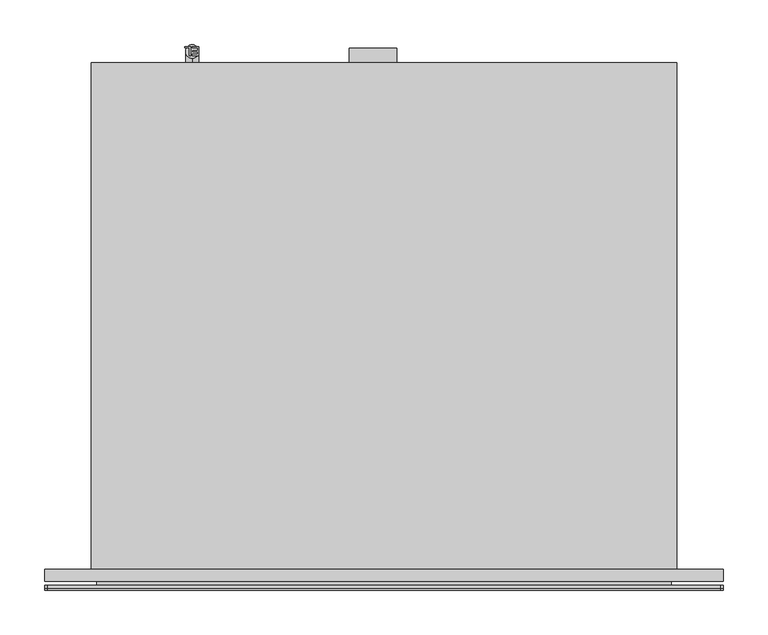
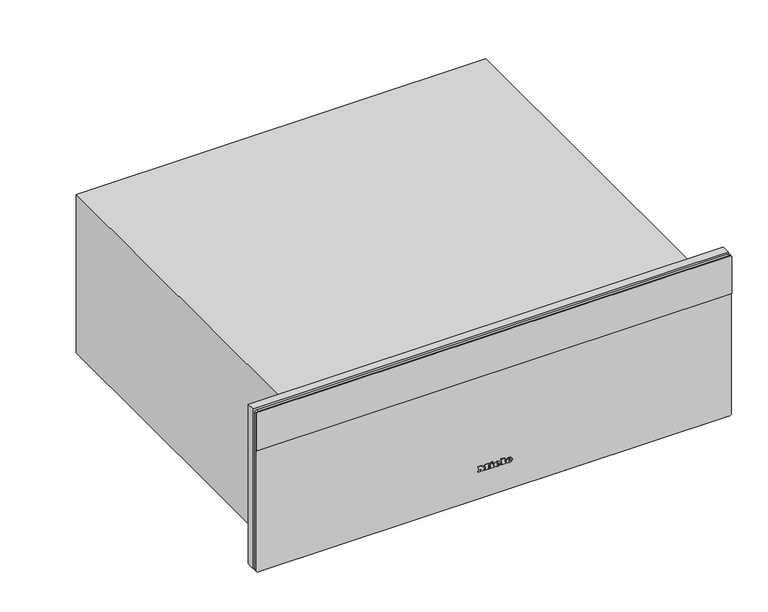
"""IFC4 building model written with IfcOpenShell, lengths in millimetres: proxy geometry, 11788750_BR_ESW7680_EDST-CLST : 30768040_BR_11788750_ESW7680_EDST-CLST."""

import ifcopenshell
import ifcopenshell.guid

model = None  # the IFC model being written
_history = None  # IfcOwnerHistory: only IFC2X3 demands one
_inside = {}  # id of a spatial element -> (the spatial element, [elements in it])
_under = {}  # id of a project, library or spatial element -> (it, [spatial elements below it])
_declared = {}  # id of a project -> (the project, [libraries it declares])
_typed = {}  # id of a type object -> (the type object, [elements of that type])
_made_of = {}  # id of a material, layer set ... -> (it, [elements and type objects made of it])


def new_model(schema):
    """Start an empty IFC model of exactly this schema.

    Asked for "IFC4X3", IfcOpenShell would pick the latest addendum, in which some entities
    have other attributes; the version numbers below select the first issue.
    IFC2X3 requires an IfcOwnerHistory on every rooted entity: one is made here for all.
    """
    global model, _history
    if schema == "IFC4X3":
        model = ifcopenshell.file(schema_version=(4, 3, 0, 0))
    else:
        model = ifcopenshell.file(schema=schema)
    _inside.clear()
    _under.clear()
    _declared.clear()
    _typed.clear()
    _made_of.clear()
    _history = None
    if model.schema == "IFC2X3":
        org = make("IfcOrganization", Name="unknown")
        user = make(
            "IfcPersonAndOrganization",
            ThePerson=make("IfcPerson", FamilyName="unknown"),
            TheOrganization=org,
        )
        app = make(
            "IfcApplication",
            ApplicationDeveloper=org,
            Version="unknown",
            ApplicationFullName="unknown",
            ApplicationIdentifier="unknown",
        )
        _history = make(
            "IfcOwnerHistory",
            OwningUser=user,
            OwningApplication=app,
            ChangeAction="ADDED",
            CreationDate=0,
        )
    return model


def make(cls, **values):
    """One entity of the class cls with the attributes given. An attribute that is None is left unset."""
    return model.create_entity(
        cls, **{name: value for name, value in values.items() if value is not None}
    )


def rooted(cls, **values):
    """An entity with a GlobalId (a new one), such as an element, a storey or a relation."""
    return make(cls, GlobalId=ifcopenshell.guid.new(), OwnerHistory=_history, **values)


def si_unit(unit_type, name, prefix=None):
    """IfcSIUnit, for example si_unit("LENGTHUNIT", "METRE", prefix="MILLI")."""
    return make("IfcSIUnit", UnitType=unit_type, Prefix=prefix, Name=name)


def assignment(units):
    """IfcUnitAssignment: the units of a project."""
    return None if units is None else make("IfcUnitAssignment", Units=units)


def point(xyz):
    """IfcCartesianPoint."""
    return None if xyz is None else make("IfcCartesianPoint", Coordinates=xyz)


def direction(xyz):
    """IfcDirection."""
    return None if xyz is None else make("IfcDirection", DirectionRatios=xyz)


def frame(location, z_axis=None, x_axis=None):
    """IfcAxis2Placement3D, a coordinate frame: its origin and axes. An axis left out is left unset."""
    return make(
        "IfcAxis2Placement3D",
        Location=point(location),
        Axis=direction(z_axis),
        RefDirection=direction(x_axis),
    )


def frame_2d(location, x_axis=None):
    """IfcAxis2Placement2D, a coordinate frame in the plane: its origin and x axis."""
    return make(
        "IfcAxis2Placement2D", Location=point(location), RefDirection=direction(x_axis)
    )


def origin():
    """The frame at (0, 0, 0) with its axes left unset."""
    return frame((0.0, 0.0, 0.0))


def place(relative_to, where):
    """IfcLocalPlacement: puts the frame where relative to a parent placement (None: the world)."""
    return make(
        "IfcLocalPlacement", PlacementRelTo=relative_to, RelativePlacement=where
    )


def context(
    kind, dimensions, precision=None, world=None, true_north=None, identifier=None
):
    """IfcGeometricRepresentationContext, for example the 3D "Model" context."""
    return make(
        "IfcGeometricRepresentationContext",
        ContextIdentifier=identifier,
        ContextType=kind,
        CoordinateSpaceDimension=dimensions,
        Precision=precision,
        WorldCoordinateSystem=world,
        TrueNorth=true_north,
    )


def project(units=None, contexts=None):
    """IfcProject with its units and contexts."""
    return rooted(
        "IfcProject",
        Name="project",
        RepresentationContexts=contexts,
        UnitsInContext=assignment(units),
    )


def spatial(cls, under=None, at=None, **own):
    """A site, building, storey or space (cls), placed at a placement, below another one or the project."""
    s = rooted(cls, ObjectPlacement=at, **own)
    if under is not None:
        _under.setdefault(under.id(), (under, []))[1].append(s)
    return s


def polyline(points):
    """IfcPolyline through the points."""
    return make("IfcPolyline", Points=[point(p) for p in points])


def circle_curve(where, radius):
    """IfcCircle in the frame where."""
    return make("IfcCircle", Position=where, Radius=radius)


def ellipse_curve(where, semi_axis1, semi_axis2):
    """IfcEllipse in the frame where."""
    return make(
        "IfcEllipse", Position=where, SemiAxis1=semi_axis1, SemiAxis2=semi_axis2
    )


def trimmed(basis, trim1, trim2, sense, master):
    """IfcTrimmedCurve: the piece of a basis curve between two trims."""
    return make(
        "IfcTrimmedCurve",
        BasisCurve=basis,
        Trim1=trim1,
        Trim2=trim2,
        SenseAgreement=sense,
        MasterRepresentation=master,
    )


def segment(curve, same_sense, transition):
    """IfcCompositeCurveSegment."""
    return make(
        "IfcCompositeCurveSegment",
        Transition=transition,
        SameSense=same_sense,
        ParentCurve=curve,
    )


def composite_curve(segments, self_intersect=None):
    """IfcCompositeCurve: segments joined end to end."""
    return make("IfcCompositeCurve", Segments=segments, SelfIntersect=self_intersect)


def outline(outer, holes=None, kind="AREA"):
    """IfcArbitraryClosedProfileDef: a profile drawn as a closed curve; with holes, ...WithVoids."""
    if holes is None:
        return make("IfcArbitraryClosedProfileDef", ProfileType=kind, OuterCurve=outer)
    return make(
        "IfcArbitraryProfileDefWithVoids",
        ProfileType=kind,
        OuterCurve=outer,
        InnerCurves=holes,
    )


def extrude(swept, where, along, depth):
    """IfcExtrudedAreaSolid: the profile swept, set in the frame where, extruded along a direction by depth."""
    return make(
        "IfcExtrudedAreaSolid",
        SweptArea=swept,
        Position=where,
        ExtrudedDirection=direction(along),
        Depth=depth,
    )


def faces_of(points, faces, orient=None, outer=None):
    """IfcFace entities. A face is a list of loops; a loop is a list of indices into points, from 0.

    orient and outer hold one flag for each loop. By default every Orientation is true, the
    first loop of a face is its IfcFaceOuterBound and the others are IfcFaceBound.
    """
    made = []
    for i, loops in enumerate(faces):
        bounds = []
        for j, loop in enumerate(loops):
            is_outer = j == 0 if outer is None else outer[i][j]
            bounds.append(
                make(
                    "IfcFaceOuterBound" if is_outer else "IfcFaceBound",
                    Bound=make("IfcPolyLoop", Polygon=[points[k] for k in loop]),
                    Orientation=True if orient is None else orient[i][j],
                )
            )
        made.append(make("IfcFace", Bounds=bounds))
    return made


def faceted_brep(points, faces, orient=None, outer=None, voids=None):
    """IfcFacetedBrep: a solid bounded by flat faces; with voids (closed shells), ...WithVoids."""
    shared = [point(p) for p in points]
    hull = make("IfcClosedShell", CfsFaces=faces_of(shared, faces, orient, outer))
    if voids is None:
        return make("IfcFacetedBrep", Outer=hull)
    return make(
        "IfcFacetedBrepWithVoids",
        Outer=hull,
        Voids=[
            make(cls, CfsFaces=faces_of(shared, fs, o, b)) for cls, fs, o, b in voids
        ],
    )


def shape(context_of_items, identifier, shape_type, items):
    """IfcShapeRepresentation: the items that make up one representation, for example the "Body"."""
    return make(
        "IfcShapeRepresentation",
        ContextOfItems=context_of_items,
        RepresentationIdentifier=identifier,
        RepresentationType=shape_type,
        Items=items,
    )


def source(mapping_origin, context_of_items, identifier, shape_type, items):
    """IfcRepresentationMap: a shape defined once, which mapped items show again and again."""
    return make(
        "IfcRepresentationMap",
        MappingOrigin=mapping_origin,
        MappedRepresentation=shape(context_of_items, identifier, shape_type, items),
    )


def transform(
    local_origin,
    x_axis=None,
    y_axis=None,
    z_axis=None,
    scale=None,
    scale2=None,
    scale3=None,
    uniform=True,
):
    """IfcCartesianTransformationOperator3D, or its non-uniform kind. x_axis, y_axis, z_axis: its Axis1, 2, 3."""
    if uniform:
        return make(
            "IfcCartesianTransformationOperator3D",
            Axis1=direction(x_axis),
            Axis2=direction(y_axis),
            LocalOrigin=point(local_origin),
            Scale=scale,
            Axis3=direction(z_axis),
        )
    return make(
        "IfcCartesianTransformationOperator3DnonUniform",
        Axis1=direction(x_axis),
        Axis2=direction(y_axis),
        LocalOrigin=point(local_origin),
        Scale=scale,
        Axis3=direction(z_axis),
        Scale2=scale2,
        Scale3=scale3,
    )


def mapped(mapping_source, mapping_target):
    """IfcMappedItem: shows the shape of a source again, moved by a transform."""
    return make(
        "IfcMappedItem", MappingSource=mapping_source, MappingTarget=mapping_target
    )


def made_of(thing, what):
    """Note that an element or type object is made of a material, layer set ...; save() writes the relation."""
    if what is not None:
        _made_of.setdefault(what.id(), (what, []))[1].append(thing)
    return thing


def element(
    cls,
    number,
    at=None,
    inside=None,
    cuts=None,
    type_object=None,
    material=None,
    context=None,
    identifier="Body",
    shape_type=None,
    held_by="IfcProductDefinitionShape",
    body=None,
    shapes=None,
    **own,
):
    """One element of the class cls, such as IfcWall. Its Tag is "e" and its number.

    at: its placement. inside: the storey or other place that contains it. cuts: it is an
    opening in that element (IfcRelVoidsElement). A single representation is given by context,
    identifier, shape_type and body (its items); several are given by shapes. held_by: the class
    of the entity that holds the representations. save() writes the other relations.
    """
    e = rooted(cls, Tag="e%d" % number, ObjectPlacement=at, **own)
    if body is not None:
        shapes = [shape(context, identifier, shape_type, body)]
    if shapes is not None:
        e.Representation = make(held_by, Representations=shapes)
    if inside is not None:
        _inside.setdefault(inside.id(), (inside, []))[1].append(e)
    if cuts is not None:
        rooted(
            "IfcRelVoidsElement", RelatingBuildingElement=cuts, RelatedOpeningElement=e
        )
    if type_object is not None:
        _typed.setdefault(type_object.id(), (type_object, []))[1].append(e)
    return made_of(e, material)


def aggregate(whole, parts):
    """IfcRelAggregates: a whole, such as a stair, and the parts it consists of."""
    return rooted("IfcRelAggregates", RelatingObject=whole, RelatedObjects=parts)


def save(model, path):
    """Write the relations noted so far, then the file.

    IfcRelAggregates (storeys below a building ...), IfcRelContainedInSpatialStructure (elements
    in a storey), IfcRelDefinesByType, IfcRelAssociatesMaterial and IfcRelDeclares: one each for
    every whole, place, type object, material and project.
    """
    for whole, parts in _under.values():
        aggregate(whole, parts)
    for where, things in _inside.values():
        rooted(
            "IfcRelContainedInSpatialStructure",
            RelatedElements=things,
            RelatingStructure=where,
        )
    for kind, things in _typed.values():
        rooted("IfcRelDefinesByType", RelatedObjects=things, RelatingType=kind)
    for what, things in _made_of.values():
        rooted("IfcRelAssociatesMaterial", RelatedObjects=things, RelatingMaterial=what)
    for by, libraries in _declared.values():
        rooted("IfcRelDeclares", RelatingContext=by, RelatedDefinitions=libraries)
    model.write(path)


def plane_surface(at):
    """IfcPlane: the flat surface through the origin of the frame at, square to its z axis."""
    return make("IfcPlane", Position=at)


def cylinder_surface(at, radius):
    """IfcCylindricalSurface: all points at the distance radius from the z axis of the frame at."""
    return make("IfcCylindricalSurface", Position=at, Radius=radius)


def revolved_surface(curve, axis_point, axis_direction):
    """IfcSurfaceOfRevolution: the curve turned about the line through axis_point along axis_direction."""
    return make(
        "IfcSurfaceOfRevolution",
        SweptCurve=make("IfcArbitraryOpenProfileDef", ProfileType="CURVE", Curve=curve),
        AxisPosition=make("IfcAxis1Placement", Location=point(axis_point), Axis=direction(axis_direction)),
    )


def extruded_surface(curve, direction_of_extrusion, depth):
    """IfcSurfaceOfLinearExtrusion: the curve pushed along a direction by depth."""
    return make(
        "IfcSurfaceOfLinearExtrusion",
        SweptCurve=make("IfcArbitraryOpenProfileDef", ProfileType="CURVE", Curve=curve),
        ExtrudedDirection=direction(direction_of_extrusion),
        Depth=depth,
    )


def advanced_brep(points, edges, surfaces, faces):
    """IfcAdvancedBrep: a solid bounded by faces that lie on surfaces and meet in shared edges.

    An edge is (start, end): straight between two places in points (the first is 0);
    or (start, end, curve); or (start, end, curve, False) where it runs against its curve.
    A face is (place in surfaces, loops), or (place, loops, False) where it looks against
    its surface's normal. A loop lists edges by number (the first is 1), with a minus sign
    where the edge is run from its end to its start. The first loop is the outer one.
    """
    corners = [point(p) for p in points]
    vertices = [make("IfcVertexPoint", VertexGeometry=c) for c in corners]
    made = []
    for start, end, *more in edges:
        made.append(
            make(
                "IfcEdgeCurve",
                EdgeStart=vertices[start],
                EdgeEnd=vertices[end],
                EdgeGeometry=more[0] if more else make("IfcPolyline", Points=[corners[start], corners[end]]),
                SameSense=more[1] if len(more) > 1 else True,
            )
        )
    hull = []
    for where, loops, *sense in faces:
        bounds = []
        for j, loop in enumerate(loops):
            ring = [make("IfcOrientedEdge", EdgeElement=made[abs(k) - 1], Orientation=k > 0) for k in loop]
            bounds.append(
                make(
                    "IfcFaceOuterBound" if j == 0 else "IfcFaceBound",
                    Bound=make("IfcEdgeLoop", EdgeList=ring),
                    Orientation=True,
                )
            )
        hull.append(make("IfcAdvancedFace", Bounds=bounds, FaceSurface=surfaces[where], SameSense=sense[0] if sense else True))
    return make("IfcAdvancedBrep", Outer=make("IfcClosedShell", CfsFaces=hull))


def specialty_equipment_7c6c6db1(model_context):
    return source(origin(), model_context, "Body", "SolidModel", [
        advanced_brep(
        [(23.263, -22.7, 52.133), (23.263, -22.7, 53.042), (29.284, -22.7, 53.042), (18.808, -22.7, 53.042), (21.283, -22.7, 50.0), (29.131, -22.7, 52.133), (26.413, -22.7, 52.133), (24.271, -22.7, 51.125), (23.263, -22.7, 54.194), (23.263, -22.7, 55.175), (24.802, -22.7, 55.175), (24.802, -22.7, 54.194), (23.263, -21.7, 52.133), (24.271, -21.7, 51.125), (26.413, -21.7, 52.133), (29.131, -21.7, 52.133), (21.283, -21.7, 50.0), (18.808, -21.7, 53.042), (29.284, -21.7, 53.042), (23.263, -21.7, 53.042), (23.263, -21.7, 54.194), (24.802, -21.7, 54.194), (24.802, -21.7, 55.175), (23.263, -21.7, 55.175)],
        [
            (0, 1),
            (1, 2),
            (2, 3, ellipse_curve(frame((24.046, -22.7, 53.042), z_axis=(0.0, -1.0, 0.0), x_axis=(-1.0, 0.0, 0.0)), 5.238, 4.329)),
            (3, 4, circle_curve(frame((22.2910491, -22.7, 53.348), z_axis=(0.0, -1.0, 0.0), x_axis=(0.0, 0.0, -1.0)), 3.4964649)),
            (4, 5, circle_curve(frame((23.9411428, -22.7, 55.724), z_axis=(0.0, -1.0, 0.0), x_axis=(0.0, 0.0, -1.0)), 6.3110933)),
            (5, 6),
            (6, 7, circle_curve(frame((24.7109412, -22.7, 52.97), z_axis=(0.0, 1.0, 0.0), x_axis=(0.0, 0.0, -1.0)), 1.896727)),
            (7, 0, circle_curve(frame((24.271, -22.7, 52.133), z_axis=(0.0, 1.0, 0.0), x_axis=(0.0, 0.0, -1.0)), 1.008)),
            (8, 9),
            (9, 10, circle_curve(frame((24.0325, -22.7, 55.175), z_axis=(0.0, 1.0, 0.0), x_axis=(0.0, 0.0, -1.0)), 0.7695)),
            (10, 11),
            (11, 8),
            (12, 13, circle_curve(frame((24.271, -21.7, 52.133), z_axis=(0.0, -1.0, 0.0), x_axis=(0.0, 0.0, -1.0)), 1.008)),
            (13, 14, circle_curve(frame((24.7109412, -21.7, 52.97), z_axis=(0.0, -1.0, 0.0), x_axis=(0.0, 0.0, -1.0)), 1.896727)),
            (14, 15),
            (15, 16, circle_curve(frame((23.9411428, -21.7, 55.724), z_axis=(0.0, 1.0, 0.0), x_axis=(0.0, 0.0, -1.0)), 6.3110933)),
            (16, 17, circle_curve(frame((22.2910491, -21.7, 53.348), z_axis=(0.0, 1.0, 0.0), x_axis=(0.0, 0.0, -1.0)), 3.4964649)),
            (17, 18, ellipse_curve(frame((24.046, -21.7, 53.042), z_axis=(0.0, 1.0, 0.0), x_axis=(-1.0, 0.0, 0.0)), 5.238, 4.329)),
            (18, 19),
            (19, 12),
            (20, 21),
            (21, 22),
            (22, 23, circle_curve(frame((24.0325, -21.7, 55.175), z_axis=(0.0, -1.0, 0.0), x_axis=(0.0, 0.0, -1.0)), 0.7695)),
            (23, 20),
            (0, 12),
            (19, 1),
            (18, 2),
            (5, 15),
            (14, 6),
            (17, 3),
            (13, 7),
            (16, 4),
            (8, 20),
            (23, 9),
            (22, 10),
            (21, 11),
        ],
        [
            plane_surface(frame((23.263, -22.7, 53.042), z_axis=(0.0, -1.0, 0.0), x_axis=(0.0, 0.0, 1.0))),
            plane_surface(frame((23.263, -21.7, 53.042), z_axis=(0.0, 1.0, 0.0), x_axis=(0.0, 0.0, -1.0))),
            plane_surface(frame((23.263, -22.7, 52.133), z_axis=(1.0, 0.0, 0.0), x_axis=(0.0, 1.0, 0.0))),
            plane_surface(frame((23.263, -22.7, 53.042), z_axis=(0.0, 0.0, -1.0), x_axis=(0.0, 1.0, 0.0))),
            plane_surface(frame((29.131, -22.7, 52.133), z_axis=(0.0, 0.0, 1.0), x_axis=(0.0, 1.0, 0.0))),
            extruded_surface(trimmed(ellipse_curve(frame((24.046, -20.7, 53.042), z_axis=(0.0, -1.0, 0.0), x_axis=(-1.0, 0.0, 0.0)), 5.238, 4.329), [point((29.284, -20.7, 53.042))], [point((18.808, -20.7, 53.042))], True, "CARTESIAN"), (0.0, -1.0, 0.0), 1.0),
            revolved_surface(polyline([(24.7109412, -21.7, 51.073273), (24.7109412, -22.7, 51.073273)]), (24.7109412, -21.7, 52.97), (0.0, 1.0, 0.0)),
            revolved_surface(polyline([(24.271, -21.7, 51.125), (24.271, -22.7, 51.125)]), (24.271, -21.7, 52.133), (0.0, 1.0, 0.0)),
            cylinder_surface(frame((22.2910491, -21.7, 53.348), z_axis=(0.0, -1.0, 0.0), x_axis=(0.0, 0.0, -1.0)), 3.4964649),
            cylinder_surface(frame((23.9411428, -21.7, 55.724), z_axis=(0.0, -1.0, 0.0), x_axis=(0.0, 0.0, -1.0)), 6.3110933),
            plane_surface(frame((23.263, -22.7, 54.194), z_axis=(1.0, 0.0, 0.0), x_axis=(0.0, 1.0, 0.0))),
            revolved_surface(polyline([(24.0325, -21.7, 54.405499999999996), (24.0325, -22.7, 54.405499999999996)]), (24.0325, -21.7, 55.175), (0.0, 1.0, 0.0)),
            plane_surface(frame((24.802, -22.7, 55.175), z_axis=(-1.0, 0.0, 0.0), x_axis=(0.0, 1.0, 0.0))),
            plane_surface(frame((24.802, -22.7, 54.194), z_axis=(0.0, 0.0, 1.0), x_axis=(0.0, 1.0, 0.0))),
        ],
        [
            (0, [[1, 2, 3, 4, 5, 6, 7, 8], [9, 10, 11, 12]]),
            (1, [[13, 14, 15, 16, 17, 18, 19, 20], [21, 22, 23, 24]]),
            (2, [[-1, 25, -20, 26]]),
            (3, [[-2, -26, -19, 27]]),
            (4, [[-6, 28, -15, 29]]),
            (5, [[-3, -27, -18, 30]]),
            (6, [[-7, -29, -14, 31]]),
            (7, [[-8, -31, -13, -25]]),
            (8, [[-4, -30, -17, 32]]),
            (9, [[-5, -32, -16, -28]]),
            (10, [[-9, 33, -24, 34]]),
            (11, [[-10, -34, -23, 35]]),
            (12, [[-11, -35, -22, 36]]),
            (13, [[-12, -36, -21, -33]]),
        ],
    ),
        advanced_brep(
        [(4.48, -22.7, 52.133), (4.48, -22.7, 53.042), (10.501, -22.7, 53.042), (0.025, -22.7, 53.042), (2.5, -22.7, 50.0), (10.348, -22.7, 52.133), (7.63, -22.7, 52.133), (5.488, -22.7, 51.125), (4.48, -22.7, 54.194), (4.48, -22.7, 55.175), (6.019, -22.7, 55.175), (6.019, -22.7, 54.194), (4.48, -21.7, 52.133), (5.488, -21.7, 51.125), (7.63, -21.7, 52.133), (10.348, -21.7, 52.133), (2.5, -21.7, 50.0), (0.025, -21.7, 53.042), (10.501, -21.7, 53.042), (4.48, -21.7, 53.042), (4.48, -21.7, 54.194), (6.019, -21.7, 54.194), (6.019, -21.7, 55.175), (4.48, -21.7, 55.175)],
        [
            (0, 1),
            (1, 2),
            (2, 3, ellipse_curve(frame((5.263, -22.7, 53.042), z_axis=(0.0, -1.0, 0.0), x_axis=(-1.0, 0.0, 0.0)), 5.238, 4.329)),
            (3, 4, circle_curve(frame((3.5080491, -22.7, 53.348), z_axis=(0.0, -1.0, 0.0), x_axis=(0.0, 0.0, -1.0)), 3.4964649)),
            (4, 5, circle_curve(frame((5.1581428, -22.7, 55.724), z_axis=(0.0, -1.0, 0.0), x_axis=(0.0, 0.0, -1.0)), 6.3110933)),
            (5, 6),
            (6, 7, circle_curve(frame((5.9279412, -22.7, 52.97), z_axis=(0.0, 1.0, 0.0), x_axis=(0.0, 0.0, -1.0)), 1.896727)),
            (7, 0, circle_curve(frame((5.488, -22.7, 52.133), z_axis=(0.0, 1.0, 0.0), x_axis=(0.0, 0.0, -1.0)), 1.008)),
            (8, 9),
            (9, 10, circle_curve(frame((5.2495, -22.7, 55.175), z_axis=(0.0, 1.0, 0.0), x_axis=(0.0, 0.0, -1.0)), 0.7695)),
            (10, 11),
            (11, 8),
            (12, 13, circle_curve(frame((5.488, -21.7, 52.133), z_axis=(0.0, -1.0, 0.0), x_axis=(0.0, 0.0, -1.0)), 1.008)),
            (13, 14, circle_curve(frame((5.9279412, -21.7, 52.97), z_axis=(0.0, -1.0, 0.0), x_axis=(0.0, 0.0, -1.0)), 1.896727)),
            (14, 15),
            (15, 16, circle_curve(frame((5.1581428, -21.7, 55.724), z_axis=(0.0, 1.0, 0.0), x_axis=(0.0, 0.0, -1.0)), 6.3110933)),
            (16, 17, circle_curve(frame((3.5080491, -21.7, 53.348), z_axis=(0.0, 1.0, 0.0), x_axis=(0.0, 0.0, -1.0)), 3.4964649)),
            (17, 18, ellipse_curve(frame((5.263, -21.7, 53.042), z_axis=(0.0, 1.0, 0.0), x_axis=(-1.0, 0.0, 0.0)), 5.238, 4.329)),
            (18, 19),
            (19, 12),
            (20, 21),
            (21, 22),
            (22, 23, circle_curve(frame((5.2495, -21.7, 55.175), z_axis=(0.0, -1.0, 0.0), x_axis=(0.0, 0.0, -1.0)), 0.7695)),
            (23, 20),
            (0, 12),
            (19, 1),
            (18, 2),
            (5, 15),
            (14, 6),
            (17, 3),
            (13, 7),
            (16, 4),
            (8, 20),
            (23, 9),
            (22, 10),
            (21, 11),
        ],
        [
            plane_surface(frame((4.48, -22.7, 53.042), z_axis=(0.0, -1.0, 0.0), x_axis=(0.0, 0.0, 1.0))),
            plane_surface(frame((4.48, -21.7, 53.042), z_axis=(0.0, 1.0, 0.0), x_axis=(0.0, 0.0, -1.0))),
            plane_surface(frame((4.48, -22.7, 52.133), z_axis=(1.0, 0.0, 0.0), x_axis=(0.0, 1.0, 0.0))),
            plane_surface(frame((4.48, -22.7, 53.042), z_axis=(0.0, 0.0, -1.0), x_axis=(0.0, 1.0, 0.0))),
            plane_surface(frame((10.348, -22.7, 52.133), z_axis=(0.0, 0.0, 1.0), x_axis=(0.0, 1.0, 0.0))),
            extruded_surface(trimmed(ellipse_curve(frame((5.263, -20.7, 53.042), z_axis=(0.0, -1.0, 0.0), x_axis=(-1.0, 0.0, 0.0)), 5.238, 4.329), [point((10.501, -20.7, 53.042))], [point((0.025, -20.7, 53.042))], True, "CARTESIAN"), (0.0, -1.0, 0.0), 1.0),
            revolved_surface(polyline([(5.9279412, -21.7, 51.073273), (5.9279412, -22.7, 51.073273)]), (5.9279412, -21.7, 52.97), (0.0, 1.0, 0.0)),
            revolved_surface(polyline([(5.488, -21.7, 51.125), (5.488, -22.7, 51.125)]), (5.488, -21.7, 52.133), (0.0, 1.0, 0.0)),
            cylinder_surface(frame((3.5080491, -21.7, 53.348), z_axis=(0.0, -1.0, 0.0), x_axis=(0.0, 0.0, -1.0)), 3.4964649),
            cylinder_surface(frame((5.1581428, -21.7, 55.724), z_axis=(0.0, -1.0, 0.0), x_axis=(0.0, 0.0, -1.0)), 6.3110933),
            plane_surface(frame((4.48, -22.7, 54.194), z_axis=(1.0, 0.0, 0.0), x_axis=(0.0, 1.0, 0.0))),
            revolved_surface(polyline([(5.2495, -21.7, 54.405499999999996), (5.2495, -22.7, 54.405499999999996)]), (5.2495, -21.7, 55.175), (0.0, 1.0, 0.0)),
            plane_surface(frame((6.019, -22.7, 55.175), z_axis=(-1.0, 0.0, 0.0), x_axis=(0.0, 1.0, 0.0))),
            plane_surface(frame((6.019, -22.7, 54.194), z_axis=(0.0, 0.0, 1.0), x_axis=(0.0, 1.0, 0.0))),
        ],
        [
            (0, [[1, 2, 3, 4, 5, 6, 7, 8], [9, 10, 11, 12]]),
            (1, [[13, 14, 15, 16, 17, 18, 19, 20], [21, 22, 23, 24]]),
            (2, [[-1, 25, -20, 26]]),
            (3, [[-2, -26, -19, 27]]),
            (4, [[-6, 28, -15, 29]]),
            (5, [[-3, -27, -18, 30]]),
            (6, [[-7, -29, -14, 31]]),
            (7, [[-8, -31, -13, -25]]),
            (8, [[-4, -30, -17, 32]]),
            (9, [[-5, -32, -16, -28]]),
            (10, [[-9, 33, -24, 34]]),
            (11, [[-10, -34, -23, 35]]),
            (12, [[-11, -35, -22, 36]]),
            (13, [[-12, -36, -21, -33]]),
        ],
    ),
        extrude(outline(polyline([(58.469, -5.357), (57.011, -4.673), (58.433, -1.622), (59.891, -2.297), (58.469, -5.357)])), frame((0.0, -22.7, 0.0), z_axis=(0.0, 1.0, 0.0), x_axis=(0.0, 0.0, 1.0)), (0.0, 0.0, 1.0), 1.0),
        extrude(outline(polyline([(56.813, -7.58), (55.202, -7.58), (55.202, -6.509), (51.512, -6.509), (51.512, -7.58), (50.0, -7.58), (50.0, -0.479), (51.512, -0.479), (51.512, -1.523), (56.813, -1.523), (56.813, -7.58)])), frame((0.0, -22.7, 0.0), z_axis=(0.0, 1.0, 0.0), x_axis=(0.0, 0.0, 1.0)), (0.0, 0.0, 1.0), 1.0),
        extrude(outline(polyline([(57.533, 11.005), (57.533, 12.085), (51.512, 12.085), (51.512, 11.005), (50.0, 11.005), (50.0, 18.304), (51.512, 18.304), (51.512, 17.197), (59.0, 17.197), (59.0, 11.005), (57.533, 11.005)])), frame((0.0, -22.7, 0.0), z_axis=(0.0, 1.0, 0.0), x_axis=(0.0, 0.0, 1.0)), (0.0, 0.0, 1.0), 1.0),
        extrude(outline(polyline([(57.533, -25.517), (57.533, -24.428), (51.512, -24.428), (51.512, -25.517), (50.0, -25.517), (50.0, -21.557), (51.512, -21.557), (51.512, -22.637), (55.3341247, -22.637), (50.0, -18.614), (55.4402223, -14.573), (51.512, -14.573), (51.512, -15.68), (50.0, -15.68), (50.0, -8.498), (51.512, -8.498), (51.512, -9.641), (57.533, -9.641), (57.533, -8.498), (59.0, -8.498), (59.0, -13.979), (55.625, -16.607), (59.0, -19.244), (59.0, -25.517), (57.533, -25.517)])), frame((0.0, -22.7, 0.0), z_axis=(0.0, 1.0, 0.0), x_axis=(0.0, 0.0, 1.0)), (0.0, 0.0, 1.0), 1.0),
        extrude(outline(polyline([(19.0, 249.0), (19.0, 208.0), (4.0, 208.0), (4.0, 65.0), (-13.0, 65.0), (-13.0, 249.0), (19.0, 249.0)])), frame((-316.5, 0.0, 0.0), z_axis=(1.0, 0.0, 0.0), x_axis=(0.0, 1.0, 0.0)), (0.0, 0.0, 1.0), 633.0),
        extrude(outline(composite_curve([segment(polyline([(275.0, 375.5), (275.0, -375.5)]), True, "CONTINUOUS"), segment(trimmed(circle_curve(frame_2d((272.0, -375.5)), 3.0), [point((275.0, -375.5))], [point((272.0, -378.5))], False, "CARTESIAN"), True, "CONTINUOUS"), segment(polyline([(272.0, -378.5), (210.0, -378.5), (210.0, 378.5), (272.0, 378.5)]), True, "CONTINUOUS"), segment(trimmed(circle_curve(frame_2d((272.0, 375.5)), 3.0), [point((272.0, 378.5))], [point((275.0, 375.5))], False, "CARTESIAN"), True, "CONTINUOUS")], self_intersect=False)), frame((0.0, -23.0, 0.0), z_axis=(0.0, 1.0, 0.0), x_axis=(0.0, 0.0, 1.0)), (0.0, 0.0, 1.0), 1.3),
        extrude(outline(composite_curve([segment(polyline([(275.0, 375.5), (275.0, -375.5)]), True, "CONTINUOUS"), segment(trimmed(circle_curve(frame_2d((272.0, -375.5)), 3.0), [point((275.0, -375.5))], [point((272.0, -378.5))], False, "CARTESIAN"), True, "CONTINUOUS"), segment(polyline([(272.0, -378.5), (7.0, -378.5)]), True, "CONTINUOUS"), segment(trimmed(circle_curve(frame_2d((7.0, -375.5)), 3.0), [point((7.0, -378.5))], [point((4.0, -375.5))], False, "CARTESIAN"), True, "CONTINUOUS"), segment(polyline([(4.0, -375.5), (4.0, 375.5)]), True, "CONTINUOUS"), segment(trimmed(circle_curve(frame_2d((7.0, 375.5)), 3.0), [point((4.0, 375.5))], [point((7.0, 378.5))], False, "CARTESIAN"), True, "CONTINUOUS"), segment(polyline([(7.0, 378.5), (272.0, 378.5)]), True, "CONTINUOUS"), segment(trimmed(circle_curve(frame_2d((272.0, 375.5)), 3.0), [point((272.0, 378.5))], [point((275.0, 375.5))], False, "CARTESIAN"), True, "CONTINUOUS")], self_intersect=False)), frame((0.0, -21.7, 0.0), z_axis=(0.0, 1.0, 0.0), x_axis=(0.0, 0.0, 1.0)), (0.0, 0.0, 1.0), 4.0),
        extrude(outline(polyline([(-320.5, -13.0), (320.5, -13.0), (320.5, -17.7), (-320.5, -17.7), (-320.5, -13.0)])), frame((0.0, 0.0, 38.0), z_axis=(0.0, 0.0, 1.0), x_axis=(1.0, 0.0, 0.0)), (0.0, 0.0, 1.0), 219.0),
        extrude(outline(polyline([(-206.6227397, 584.030815), (-206.6227397, 573.985184), (-213.843037, 573.985184), (-213.843037, 575.2408878), (-207.8784436, 575.2408878), (-207.8784436, 578.2231846), (-213.529111, 578.2231846), (-213.529111, 579.4788884), (-207.8784436, 579.4788884), (-207.8784436, 582.7751111), (-214.0, 582.7751111), (-214.0, 584.030815), (-206.6227397, 584.030815)])), frame((0.0, 0.0, 68.0), z_axis=(0.0, 0.0, 1.0), x_axis=(1.0, 0.0, 0.0)), (0.0, 0.0, 1.0), 1.0),
        extrude(outline(polyline([(-215.8835558, 584.030815), (-215.8835558, 573.985184), (-217.1392597, 573.985184), (-217.1392597, 582.7751111), (-222.1620752, 582.7751111), (-222.1620752, 584.030815), (-215.8835558, 584.030815)])), frame((0.0, 0.0, 68.0), z_axis=(0.0, 0.0, 1.0), x_axis=(1.0, 0.0, 0.0)), (0.0, 0.0, 1.0), 1.0),
        advanced_brep(
        [(-214.0, 566.0, 45.5), (-214.0, 566.0, 30.5), (-214.0, 571.0, 45.5), (-214.0, 586.0, 30.5), (-214.0, 571.0, 68.0), (-214.0, 586.0, 68.0)],
        [
            (0, 1, circle_curve(frame((-214.0, 566.0, 38.0), z_axis=(0.0, -1.0, 0.0), x_axis=(0.0, 0.0, -1.0)), 7.5)),
            (1, 0, circle_curve(frame((-214.0, 566.0, 38.0), z_axis=(0.0, -1.0, 0.0), x_axis=(0.0, 0.0, -1.0)), 7.5)),
            (0, 2),
            (2, 3, ellipse_curve(frame((-214.0, 578.5, 38.0), z_axis=(0.0, -0.7071067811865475, -0.7071067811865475), x_axis=(0.0, -0.7071067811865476, 0.7071067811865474)), 10.6066017, 7.5)),
            (3, 1),
            (3, 2, ellipse_curve(frame((-214.0, 578.5, 38.0), z_axis=(0.0, -0.7071067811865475, -0.7071067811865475), x_axis=(0.0, -0.7071067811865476, 0.7071067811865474)), 10.6066017, 7.5)),
            (4, 5, circle_curve(frame((-214.0, 578.5, 68.0), z_axis=(0.0, 0.0, 1.0), x_axis=(0.0, 1.0, 0.0)), 7.5)),
            (5, 4, circle_curve(frame((-214.0, 578.5, 68.0), z_axis=(0.0, 0.0, 1.0), x_axis=(0.0, 1.0, 0.0)), 7.5)),
            (2, 4),
            (5, 3),
        ],
        [
            plane_surface(frame((-214.0, 566.0, 38.0), z_axis=(0.0, -1.0, 0.0), x_axis=(-1.0, 0.0, 0.0))),
            cylinder_surface(frame((-214.0, 566.0, 38.0), z_axis=(0.0, -1.0, 0.0), x_axis=(0.0, 0.0, -1.0)), 7.5),
            plane_surface(frame((-214.0, 578.5, 68.0), z_axis=(0.0, 0.0, 1.0), x_axis=(-1.0, 0.0, 0.0))),
            cylinder_surface(frame((-214.0, 578.5, 38.0), z_axis=(0.0, 0.0, -1.0), x_axis=(0.0, 1.0, 0.0)), 7.5),
        ],
        [
            (0, [[1, 2]]),
            (1, [[-1, 3, 4, 5]]),
            (1, [[-2, -5, 6, -3]]),
            (2, [[7, 8]]),
            (3, [[-4, 9, -8, 10]]),
            (3, [[-6, -10, -7, -9]]),
        ],
    ),
        extrude(outline(polyline([(-39.0, 582.0), (14.0, 582.0), (14.0, 566.0), (-39.0, 566.0), (-39.0, 582.0)])), frame((0.0, 0.0, 35.0), z_axis=(0.0, 0.0, 1.0), x_axis=(1.0, 0.0, 0.0)), (0.0, 0.0, 1.0), 29.0),
        faceted_brep([(326.5, 566.0, 267.0), (-326.5, 566.0, 267.0), (-326.5, 0.0, 267.0), (326.5, 0.0, 267.0), (326.5, 566.0, 0.0), (326.5, 0.0, 0.0), (-326.5, 0.0, 0.0), (-326.5, 566.0, 0.0), (324.5, 0.0, 255.0), (324.5, 0.0, 32.0), (-324.5, 0.0, 32.0), (-324.5, 0.0, 255.0), (324.5, 561.0, 255.0), (-324.5, 561.0, 255.0), (-324.5, 561.0, 32.0), (324.5, 561.0, 32.0)], [[[0, 1, 2, 3]], [[4, 5, 6, 7]], [[1, 0, 4, 7]], [[2, 1, 7, 6]], [[3, 2, 6, 5], [8, 9, 10, 11]], [[0, 3, 5, 4]], [[12, 13, 14, 15]], [[12, 15, 9, 8]], [[15, 14, 10, 9]], [[14, 13, 11, 10]], [[13, 12, 8, 11]]]),
        faceted_brep([(378.5, -13.0, 274.5), (-378.5, -13.0, 274.5), (-378.5, -13.0, 5.5), (-324.5, -13.0, 5.5), (-324.5, -13.0, 32.0), (-324.5, -13.0, 255.0), (324.5, -13.0, 255.0), (324.5, -13.0, 32.0), (324.5, -13.0, 5.5), (378.5, -13.0, 5.5), (378.5, 0.0, 274.5), (378.5, 0.0, 5.5), (324.5, 0.0, 5.5), (324.5, 0.0, 32.0), (324.5, 0.0, 255.0), (-324.5, 0.0, 255.0), (-324.5, 0.0, 32.0), (-324.5, 0.0, 5.5), (-378.5, 0.0, 5.5), (-378.5, 0.0, 274.5)], [[[0, 1, 2, 3, 4, 5, 6, 7, 8, 9]], [[10, 11, 12, 13, 14, 15, 16, 17, 18, 19]], [[0, 9, 11, 10]], [[9, 8, 12, 11]], [[2, 1, 19, 18]], [[1, 0, 10, 19]], [[12, 8, 7, 6, 14, 13]], [[6, 5, 15, 14]], [[15, 5, 4, 3, 17, 16]], [[3, 2, 18, 17]]]),
    ])


if __name__ == "__main__":
    model = new_model("IFC4")
    model_context = context("Model", 3, world=origin())
    ifc_project = project(units=[si_unit("LENGTHUNIT", "METRE", prefix="MILLI")], contexts=[model_context])
    site = spatial("IfcSite", under=ifc_project)
    building = spatial("IfcBuilding", under=site)
    placement = place(None, origin())
    specialty_equipment_shape = specialty_equipment_7c6c6db1(model_context)
    element("IfcBuildingElementProxy", 1, Name="11788750_BR_ESW7680_EDST-CLST : 30768040_BR_11788750_ESW7680_EDST-CLST", ObjectType="11788750_BR_ESW7680_EDST-CLST : 30768040_BR_11788750_ESW7680_EDST-CLST", at=placement, inside=building, context=model_context, shape_type="MappedRepresentation", body=[
        mapped(specialty_equipment_shape, transform((0.0, 0.0, 0.0), x_axis=(1.0, 0.0, 0.0), y_axis=(0.0, 1.0, 0.0), z_axis=(0.0, 0.0, 1.0))),
    ])
    save(model, "model.ifc")
